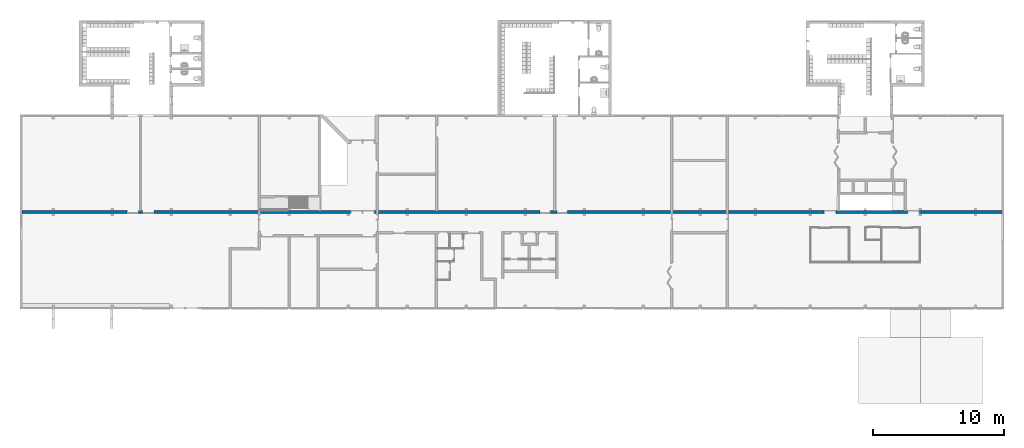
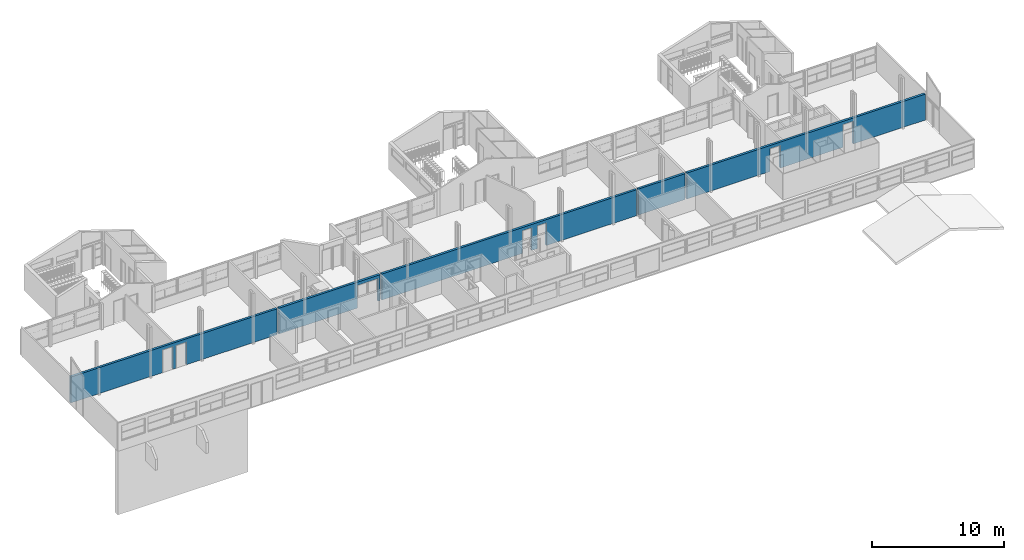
# One storey, part 20 of 48: 1 wall, 8 openings.
"""IFC2X3 building model written with IfcOpenShell, lengths in millimetres."""

import ifcopenshell
import ifcopenshell.guid

model = None  # the IFC model being written
_history = None  # IfcOwnerHistory: only IFC2X3 demands one
_inside = {}  # id of a spatial element -> (the spatial element, [elements in it])
_under = {}  # id of a project, library or spatial element -> (it, [spatial elements below it])
_declared = {}  # id of a project -> (the project, [libraries it declares])
_typed = {}  # id of a type object -> (the type object, [elements of that type])
_made_of = {}  # id of a material, layer set ... -> (it, [elements and type objects made of it])


def new_model(schema):
    """Start an empty IFC model of exactly this schema.

    Asked for "IFC4X3", IfcOpenShell would pick the latest addendum, in which some entities
    have other attributes; the version numbers below select the first issue.
    IFC2X3 requires an IfcOwnerHistory on every rooted entity: one is made here for all.
    """
    global model, _history
    if schema == "IFC4X3":
        model = ifcopenshell.file(schema_version=(4, 3, 0, 0))
    else:
        model = ifcopenshell.file(schema=schema)
    _inside.clear()
    _under.clear()
    _declared.clear()
    _typed.clear()
    _made_of.clear()
    _history = None
    if model.schema == "IFC2X3":
        org = make("IfcOrganization", Name="unknown")
        user = make(
            "IfcPersonAndOrganization",
            ThePerson=make("IfcPerson", FamilyName="unknown"),
            TheOrganization=org,
        )
        app = make(
            "IfcApplication",
            ApplicationDeveloper=org,
            Version="unknown",
            ApplicationFullName="unknown",
            ApplicationIdentifier="unknown",
        )
        _history = make(
            "IfcOwnerHistory",
            OwningUser=user,
            OwningApplication=app,
            ChangeAction="ADDED",
            CreationDate=0,
        )
    return model


def make(cls, **values):
    """One entity of the class cls with the attributes given. An attribute that is None is left unset."""
    return model.create_entity(
        cls, **{name: value for name, value in values.items() if value is not None}
    )


def entity(cls, *values):
    """Any entity or typed value of the class cls, its attributes in the order of the schema. None: left unset."""
    e = model.create_entity(cls)
    for i, value in enumerate(values):
        if value is not None:
            e[i] = value
    return e


def rooted(cls, **values):
    """An entity with a GlobalId (a new one), such as an element, a storey or a relation."""
    return make(cls, GlobalId=ifcopenshell.guid.new(), OwnerHistory=_history, **values)


def si_unit(unit_type, name, prefix=None):
    """IfcSIUnit, for example si_unit("LENGTHUNIT", "METRE", prefix="MILLI")."""
    return make("IfcSIUnit", UnitType=unit_type, Prefix=prefix, Name=name)


def converted_unit(unit_type, name, factor, base, dimensions=None, offset=None):
    """IfcConversionBasedUnit, such as the inch: factor (a typed value) times the base unit."""
    return make(
        "IfcConversionBasedUnit"
        if offset is None
        else "IfcConversionBasedUnitWithOffset",
        ConversionOffset=offset,
        Dimensions=None
        if dimensions is None
        else entity("IfcDimensionalExponents", *dimensions),
        UnitType=unit_type,
        Name=name,
        ConversionFactor=make(
            "IfcMeasureWithUnit", ValueComponent=factor, UnitComponent=base
        ),
    )


def derived_unit(unit_type, elements):
    """IfcDerivedUnit: a product of units, each with its exponent."""
    return make(
        "IfcDerivedUnit",
        Elements=[
            make("IfcDerivedUnitElement", Unit=unit, Exponent=power)
            for unit, power in elements
        ],
        UnitType=unit_type,
    )


def money_unit(currency):
    """IfcMonetaryUnit."""
    return make("IfcMonetaryUnit", Currency=currency)


def assignment(units):
    """IfcUnitAssignment: the units of a project."""
    return None if units is None else make("IfcUnitAssignment", Units=units)


def point(xyz):
    """IfcCartesianPoint."""
    return None if xyz is None else make("IfcCartesianPoint", Coordinates=xyz)


def direction(xyz):
    """IfcDirection."""
    return None if xyz is None else make("IfcDirection", DirectionRatios=xyz)


def frame(location, z_axis=None, x_axis=None):
    """IfcAxis2Placement3D, a coordinate frame: its origin and axes. An axis left out is left unset."""
    return make(
        "IfcAxis2Placement3D",
        Location=point(location),
        Axis=direction(z_axis),
        RefDirection=direction(x_axis),
    )


def origin_with_axes():
    """The frame at (0, 0, 0) with the z axis (0, 0, 1) and the x axis (1, 0, 0) written out."""
    return frame((0.0, 0.0, 0.0), z_axis=(0.0, 0.0, 1.0), x_axis=(1.0, 0.0, 0.0))


def place(relative_to, where):
    """IfcLocalPlacement: puts the frame where relative to a parent placement (None: the world)."""
    return make(
        "IfcLocalPlacement", PlacementRelTo=relative_to, RelativePlacement=where
    )


def context(
    kind, dimensions, precision=None, world=None, true_north=None, identifier=None
):
    """IfcGeometricRepresentationContext, for example the 3D "Model" context."""
    return make(
        "IfcGeometricRepresentationContext",
        ContextIdentifier=identifier,
        ContextType=kind,
        CoordinateSpaceDimension=dimensions,
        Precision=precision,
        WorldCoordinateSystem=world,
        TrueNorth=true_north,
    )


def subcontext(parent, identifier, kind, view, scale=None):
    """IfcGeometricRepresentationSubContext, for example "Body" below "Model"."""
    return make(
        "IfcGeometricRepresentationSubContext",
        ContextIdentifier=identifier,
        ContextType=kind,
        ParentContext=parent,
        TargetScale=scale,
        TargetView=view,
    )


def project(units=None, contexts=None):
    """IfcProject with its units and contexts."""
    return rooted(
        "IfcProject",
        Name="project",
        RepresentationContexts=contexts,
        UnitsInContext=assignment(units),
    )


def spatial(cls, under=None, at=None, **own):
    """A site, building, storey or space (cls), placed at a placement, below another one or the project."""
    s = rooted(cls, ObjectPlacement=at, **own)
    if under is not None:
        _under.setdefault(under.id(), (under, []))[1].append(s)
    return s


def faces_of(points, faces, orient=None, outer=None):
    """IfcFace entities. A face is a list of loops; a loop is a list of indices into points, from 0.

    orient and outer hold one flag for each loop. By default every Orientation is true, the
    first loop of a face is its IfcFaceOuterBound and the others are IfcFaceBound.
    """
    made = []
    for i, loops in enumerate(faces):
        bounds = []
        for j, loop in enumerate(loops):
            is_outer = j == 0 if outer is None else outer[i][j]
            bounds.append(
                make(
                    "IfcFaceOuterBound" if is_outer else "IfcFaceBound",
                    Bound=make("IfcPolyLoop", Polygon=[points[k] for k in loop]),
                    Orientation=True if orient is None else orient[i][j],
                )
            )
        made.append(make("IfcFace", Bounds=bounds))
    return made


def faceted_brep(points, faces, orient=None, outer=None, voids=None):
    """IfcFacetedBrep: a solid bounded by flat faces; with voids (closed shells), ...WithVoids."""
    shared = [point(p) for p in points]
    hull = make("IfcClosedShell", CfsFaces=faces_of(shared, faces, orient, outer))
    if voids is None:
        return make("IfcFacetedBrep", Outer=hull)
    return make(
        "IfcFacetedBrepWithVoids",
        Outer=hull,
        Voids=[
            make(cls, CfsFaces=faces_of(shared, fs, o, b)) for cls, fs, o, b in voids
        ],
    )


def shape(context_of_items, identifier, shape_type, items):
    """IfcShapeRepresentation: the items that make up one representation, for example the "Body"."""
    return make(
        "IfcShapeRepresentation",
        ContextOfItems=context_of_items,
        RepresentationIdentifier=identifier,
        RepresentationType=shape_type,
        Items=items,
    )


def material(Name=None, Category=None):
    """IfcMaterial."""
    return make("IfcMaterial", Name=Name, Category=Category)


def made_of(thing, what):
    """Note that an element or type object is made of a material, layer set ...; save() writes the relation."""
    if what is not None:
        _made_of.setdefault(what.id(), (what, []))[1].append(thing)
    return thing


def type_object(cls, material=None, **own):
    """A type object (cls), such as IfcWallType, which elements share."""
    return made_of(rooted(cls, **own), material)


def element(
    cls,
    number,
    at=None,
    inside=None,
    cuts=None,
    type_object=None,
    material=None,
    context=None,
    identifier="Body",
    shape_type=None,
    held_by="IfcProductDefinitionShape",
    body=None,
    shapes=None,
    **own,
):
    """One element of the class cls, such as IfcWall. Its Tag is "e" and its number.

    at: its placement. inside: the storey or other place that contains it. cuts: it is an
    opening in that element (IfcRelVoidsElement). A single representation is given by context,
    identifier, shape_type and body (its items); several are given by shapes. held_by: the class
    of the entity that holds the representations. save() writes the other relations.
    """
    e = rooted(cls, Tag="e%d" % number, ObjectPlacement=at, **own)
    if body is not None:
        shapes = [shape(context, identifier, shape_type, body)]
    if shapes is not None:
        e.Representation = make(held_by, Representations=shapes)
    if inside is not None:
        _inside.setdefault(inside.id(), (inside, []))[1].append(e)
    if cuts is not None:
        rooted(
            "IfcRelVoidsElement", RelatingBuildingElement=cuts, RelatedOpeningElement=e
        )
    if type_object is not None:
        _typed.setdefault(type_object.id(), (type_object, []))[1].append(e)
    return made_of(e, material)


def aggregate(whole, parts):
    """IfcRelAggregates: a whole, such as a stair, and the parts it consists of."""
    return rooted("IfcRelAggregates", RelatingObject=whole, RelatedObjects=parts)


def save(model, path):
    """Write the relations noted so far, then the file.

    IfcRelAggregates (storeys below a building ...), IfcRelContainedInSpatialStructure (elements
    in a storey), IfcRelDefinesByType, IfcRelAssociatesMaterial and IfcRelDeclares: one each for
    every whole, place, type object, material and project.
    """
    for whole, parts in _under.values():
        aggregate(whole, parts)
    for where, things in _inside.values():
        rooted(
            "IfcRelContainedInSpatialStructure",
            RelatedElements=things,
            RelatingStructure=where,
        )
    for kind, things in _typed.values():
        rooted("IfcRelDefinesByType", RelatedObjects=things, RelatingType=kind)
    for what, things in _made_of.values():
        rooted("IfcRelAssociatesMaterial", RelatedObjects=things, RelatingMaterial=what)
    for by, libraries in _declared.values():
        rooted("IfcRelDeclares", RelatingContext=by, RelatedDefinitions=libraries)
    model.write(path)


model = new_model("IFC2X3")

# Units and contexts
model_context = context("Model", 3, precision=0.01, world=origin_with_axes(), true_north=direction((0.0, 1.0)))
body_context = subcontext(model_context, "Body", "Model", "MODEL_VIEW")
ifc_project = project(units=[si_unit("LENGTHUNIT", "METRE", prefix="MILLI"), si_unit("AREAUNIT", "SQUARE_METRE"), si_unit("VOLUMEUNIT", "CUBIC_METRE"), converted_unit("PLANEANGLEUNIT", "DEGREE", entity("IfcPlaneAngleMeasure", 0.0174532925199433), si_unit("PLANEANGLEUNIT", "RADIAN"), dimensions=[0, 0, 0, 0, 0, 0, 0]), money_unit("USD"), converted_unit("TIMEUNIT", "Year", entity("IfcTimeMeasure", 31557600.0), si_unit("TIMEUNIT", "SECOND"), dimensions=[0, 0, 1, 0, 0, 0, 0]), si_unit("MASSUNIT", "GRAM", prefix="KILO"), si_unit("THERMODYNAMICTEMPERATUREUNIT", "DEGREE_CELSIUS"), si_unit("LUMINOUSINTENSITYUNIT", "LUMEN"), si_unit("ENERGYUNIT", "JOULE", prefix="MEGA"), derived_unit("THERMALCONDUCTANCEUNIT", [(si_unit("POWERUNIT", "WATT"), 1), (si_unit("LENGTHUNIT", "METRE"), -1), (si_unit("THERMODYNAMICTEMPERATUREUNIT", "KELVIN"), -1)]), derived_unit("SPECIFICHEATCAPACITYUNIT", [(si_unit("ENERGYUNIT", "JOULE"), 1), (si_unit("MASSUNIT", "GRAM", prefix="KILO"), -1), (si_unit("THERMODYNAMICTEMPERATUREUNIT", "KELVIN"), -1)]), derived_unit("MASSDENSITYUNIT", [(si_unit("MASSUNIT", "GRAM", prefix="KILO"), 1), (si_unit("VOLUMEUNIT", "CUBIC_METRE"), -1)])], contexts=[model_context])

# Site, building, storey
site_placement = place(None, origin_with_axes())
site = spatial("IfcSite", under=ifc_project, at=site_placement, Name="Site", CompositionType="ELEMENT")
building_placement = place(site_placement, origin_with_axes())
building = spatial("IfcBuilding", under=site, at=building_placement, Name="Building", CompositionType="ELEMENT")
storey_placement = place(building_placement, frame((0.0, 0.0, 3300.0), z_axis=(0.0, 0.0, 1.0), x_axis=(1.0, 0.0, 0.0)))
storey = spatial("IfcBuildingStorey", under=building, at=storey_placement, Name="1 ETG", CompositionType="ELEMENT", Elevation=3300.0)

# Wall, openings
ifc_material = material(Name="GENERIC - INTERNAL FILLER")
wall_type = type_object("IfcWallType", Name="GENERIC - INTERNAL FILLER 200", PredefinedType="NOTDEFINED")
wall_placement = place(storey_placement, frame((-2400.26057248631, 14599.87497638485, 0.0), z_axis=(0.0, 0.0, 1.0), x_axis=(1.0, 0.0, 0.0)))
wall = element("IfcWall", 1, at=wall_placement, inside=storey, type_object=wall_type, material=ifc_material, Name="SW - 001", context=body_context, shape_type="Brep", body=[
    faceted_brep([(39524.34131685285, 0.0, 2100.0), (39524.34131685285, 0.0, 0.0), (27200.52678517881, 0.0, 0.0), (27200.52678517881, 0.0, 2400.0), (49500.2605724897, 0.0, 2400.0), (49500.2605724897, 0.0, 0.0), (41612.66624530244, 0.0, 0.0), (41612.66624530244, 0.0, 2100.0), (40812.66624530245, 0.0, 2100.0), (40812.66624530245, 0.0, 0.0), (40324.34131685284, 0.0, 0.0), (40324.34131685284, 0.0, 2100.0), (39524.34131685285, -199.9999999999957, 2100.0), (39524.34131685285, -199.9999999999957, 0.0), (38490.26057248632, -199.9999999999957, 0.0), (38490.26057248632, -199.8749763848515, 0.0), (38310.26057248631, -199.8749763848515, 0.0), (38310.26057248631, -199.9999999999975, 0.0), (33990.26057248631, -199.9999999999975, 0.0), (33990.26057248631, -199.8749763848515, 0.0), (33810.26057248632, -199.8749763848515, 0.0), (33810.26057248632, -199.9999999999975, 0.0), (29490.26057248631, -199.9999999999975, 0.0), (29490.26057248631, -199.8749763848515, 0.0), (29310.26057248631, -199.8749763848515, 0.0), (29310.26057248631, -199.9999999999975, 0.0), (27200.52678517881, -199.9999999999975, 0.0), (27200.52678517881, -199.9999999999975, 2400.0), (47310.2605724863, -199.8749763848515, 2400.0), (47490.2605724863, -199.8749763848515, 2400.0), (47490.2605724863, -199.9999999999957, 2400.0), (49500.2605724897, -199.9999999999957, 2400.0), (29310.26057248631, -199.9999999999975, 2400.0), (29310.26057248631, -199.8749763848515, 2400.0), (29490.26057248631, -199.8749763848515, 2400.0), (29490.26057248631, -199.9999999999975, 2400.0), (33810.26057248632, -199.9999999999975, 2400.0), (33810.26057248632, -199.8749763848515, 2400.0), (33990.26057248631, -199.8749763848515, 2400.0), (33990.26057248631, -199.9999999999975, 2400.0), (38310.26057248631, -199.9999999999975, 2400.0), (38310.26057248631, -199.8749763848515, 2400.0), (38490.26057248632, -199.8749763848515, 2400.0), (38490.26057248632, -199.9999999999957, 2400.0), (42810.26057248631, -199.9999999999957, 2400.0), (42810.26057248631, -199.8749763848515, 2400.0), (42990.26057248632, -199.8749763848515, 2400.0), (42990.26057248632, -199.9999999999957, 2400.0), (47310.2605724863, -199.9999999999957, 2400.0), (49500.2605724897, -199.9999999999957, 0.0), (42990.26057248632, -199.8749763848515, 0.0), (42810.26057248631, -199.8749763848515, 0.0), (42810.26057248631, -199.9999999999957, 0.0), (41612.66624530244, -199.9999999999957, 0.0), (47490.2605724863, -199.9999999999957, 0.0), (47490.2605724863, -199.8749763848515, 0.0), (47310.2605724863, -199.8749763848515, 0.0), (47310.2605724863, -199.9999999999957, 0.0), (42990.26057248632, -199.9999999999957, 0.0), (41612.66624530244, -199.9999999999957, 2100.0), (40812.66624530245, -199.9999999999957, 2100.0), (40812.66624530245, -199.9999999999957, 0.0), (40324.34131685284, -199.9999999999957, 0.0), (40324.34131685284, -199.9999999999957, 2100.0)], [[[0, 1, 2, 3, 4, 5, 6, 7, 8, 9, 10, 11]], [[1, 0, 12, 13]], [[1, 13, 14, 15, 16, 17, 18, 19, 20, 21, 22, 23, 24, 25, 26, 2]], [[2, 26, 27, 3]], [[28, 29, 30, 31, 4, 3, 27, 32, 33, 34, 35, 36, 37, 38, 39, 40, 41, 42, 43, 44, 45, 46, 47, 48]], [[5, 4, 31, 49]], [[50, 51, 52, 53, 6, 5, 49, 54, 55, 56, 57, 58]], [[6, 53, 59, 7]], [[7, 59, 60, 8]], [[8, 60, 61, 9]], [[62, 10, 9, 61]], [[11, 10, 62, 63]], [[0, 11, 63, 12]], [[63, 62, 61, 60, 59, 53, 52, 44, 43, 14, 13, 12]], [[42, 15, 14, 43]], [[41, 16, 15, 42]], [[40, 17, 16, 41]], [[18, 17, 40, 39]], [[38, 19, 18, 39]], [[37, 20, 19, 38]], [[36, 21, 20, 37]], [[22, 21, 36, 35]], [[34, 23, 22, 35]], [[33, 24, 23, 34]], [[32, 25, 24, 33]], [[32, 27, 26, 25]], [[28, 56, 55, 29]], [[29, 55, 54, 30]], [[54, 49, 31, 30]], [[44, 52, 51, 45]], [[45, 51, 50, 46]], [[46, 50, 58, 47]], [[58, 57, 48, 47]], [[48, 57, 56, 28]]]),
    faceted_brep([(25992.55138746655, -199.9999999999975, 2100.0), (25092.55138746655, -199.9999999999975, 2100.0), (25092.55138746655, 0.0, 2100.0), (25992.55138746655, 0.0, 2100.0), (26892.55138746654, 0.0, 2100.0), (26892.55138746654, -199.9999999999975, 2100.0), (26892.55138746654, -199.9999999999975, 0.0), (27050.52678517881, -199.9999999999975, 0.0), (27050.52678517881, -199.9999999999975, 2400.0), (24990.26057248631, -199.9999999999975, 2400.0), (24990.26057248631, -199.9999999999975, 0.0), (25092.55138746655, -199.9999999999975, 0.0), (25092.55138746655, 0.0, 0.0), (18200.26057248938, 0.0, 0.0), (18200.26057248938, 0.0, 2400.0), (27050.52678517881, 0.0, 2400.0), (27050.52678517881, 0.0, 0.0), (26892.55138746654, 0.0, 0.0), (24810.26057248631, -199.8749763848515, 2400.0), (24990.26057248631, -199.8749763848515, 2400.0), (18200.26057248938, -199.9999999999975, 2400.0), (20310.26057248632, -199.9999999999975, 2400.0), (20310.26057248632, -199.8749763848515, 2400.0), (20490.26057248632, -199.8749763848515, 2400.0), (20490.26057248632, -199.9999999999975, 2400.0), (24810.26057248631, -199.9999999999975, 2400.0), (24990.26057248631, -199.8749763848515, 0.0), (24810.26057248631, -199.8749763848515, 0.0), (24810.26057248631, -199.9999999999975, 0.0), (20490.26057248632, -199.9999999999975, 0.0), (20490.26057248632, -199.8749763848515, 0.0), (20310.26057248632, -199.8749763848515, 0.0), (20310.26057248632, -199.9999999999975, 0.0), (18200.26057248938, -199.9999999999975, 0.0)], [[[0, 1, 2, 3, 4, 5]], [[1, 0, 5, 6, 7, 8, 9, 10, 11]], [[12, 2, 1, 11]], [[2, 12, 13, 14, 15, 16, 17, 4, 3]], [[17, 6, 5, 4]], [[17, 16, 7, 6]], [[16, 15, 8, 7]], [[18, 19, 9, 8, 15, 14, 20, 21, 22, 23, 24, 25]], [[19, 26, 10, 9]], [[12, 11, 10, 26, 27, 28, 29, 30, 31, 32, 33, 13]], [[13, 33, 20, 14]], [[18, 27, 26, 19]], [[21, 20, 33, 32]], [[21, 32, 31, 22]], [[22, 31, 30, 23]], [[23, 30, 29, 24]], [[29, 28, 25, 24]], [[25, 28, 27, 18]]]),
    faceted_brep([(9199.509237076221, 0.0, 2100.0), (9199.509237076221, 0.0, 0.0), (8918.715278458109, 0.0, 0.0), (8918.715278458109, 0.0, 2100.0), (8018.71527845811, 0.0, 2100.0), (8018.71527845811, 0.0, 0.0), (0.0, 0.0, 0.0), (0.0, 0.0, 2400.0), (18050.26057248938, 0.0, 2400.0), (18050.26057248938, 0.0, 0.0), (10099.50923707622, 0.0, 0.0), (10099.50923707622, 0.0, 2100.0), (9199.509237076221, -199.9999999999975, 2100.0), (9199.509237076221, -199.9999999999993, 0.0), (8918.715278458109, -199.9999999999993, 0.0), (8918.715278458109, -199.9999999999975, 2100.0), (8018.71527845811, -199.9999999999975, 2100.0), (8018.71527845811, -199.9999999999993, 0.0), (6810.260572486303, -199.9999999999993, 0.0), (0.0, -199.9999999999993, 0.0), (6990.260572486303, -199.9999999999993, 0.0), (6990.260572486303, -199.8749763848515, 0.0), (6810.260572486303, -199.8749763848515, 0.0), (0.0, -199.9999999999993, 2400.0), (15810.26057248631, -199.8749763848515, 2400.0), (15990.26057248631, -199.8749763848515, 2400.0), (15990.26057248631, -199.9999999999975, 2400.0), (18050.26057248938, -199.9999999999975, 2400.0), (6810.260572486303, -199.9999999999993, 2400.0), (6810.260572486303, -199.8749763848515, 2400.0), (6990.260572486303, -199.8749763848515, 2400.0), (6990.260572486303, -199.9999999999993, 2400.0), (11310.26057248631, -199.9999999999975, 2400.0), (11310.26057248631, -199.8749763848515, 2400.0), (11490.26057248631, -199.8749763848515, 2400.0), (11490.26057248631, -199.9999999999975, 2400.0), (15810.26057248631, -199.9999999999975, 2400.0), (18050.26057248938, -199.9999999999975, 0.0), (10099.50923707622, -199.9999999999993, 0.0), (15990.26057248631, -199.9999999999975, 0.0), (15990.26057248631, -199.8749763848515, 0.0), (15810.26057248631, -199.8749763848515, 0.0), (15810.26057248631, -199.9999999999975, 0.0), (11490.26057248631, -199.9999999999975, 0.0), (11490.26057248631, -199.8749763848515, 0.0), (11310.26057248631, -199.8749763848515, 0.0), (11310.26057248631, -199.9999999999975, 0.0), (10099.50923707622, -199.9999999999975, 2100.0)], [[[0, 1, 2, 3, 4, 5, 6, 7, 8, 9, 10, 11]], [[1, 0, 12, 13]], [[1, 13, 14, 2]], [[2, 14, 15, 3]], [[3, 15, 16, 4]], [[4, 16, 17, 5]], [[18, 19, 6, 5, 17, 20, 21, 22]], [[6, 19, 23, 7]], [[24, 25, 26, 27, 8, 7, 23, 28, 29, 30, 31, 32, 33, 34, 35, 36]], [[9, 8, 27, 37]], [[38, 10, 9, 37, 39, 40, 41, 42, 43, 44, 45, 46]], [[11, 10, 38, 47]], [[0, 11, 47, 12]], [[47, 38, 46, 32, 31, 20, 17, 16, 15, 14, 13, 12]], [[28, 23, 19, 18]], [[30, 21, 20, 31]], [[29, 22, 21, 30]], [[28, 18, 22, 29]], [[24, 41, 40, 25]], [[25, 40, 39, 26]], [[39, 37, 27, 26]], [[32, 46, 45, 33]], [[33, 45, 44, 34]], [[34, 44, 43, 35]], [[43, 42, 36, 35]], [[36, 42, 41, 24]]]),
    faceted_brep([(49650.2605724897, -199.9999999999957, 2400.0), (51660.2605724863, -199.9999999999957, 2400.0), (51660.2605724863, -199.8749763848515, 2400.0), (51840.26057248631, -199.8749763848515, 2400.0), (51840.26057248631, -199.9999999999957, 2400.0), (53750.24783760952, -199.9999999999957, 2400.0), (53750.24748386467, 0.0, 2400.0), (49650.2605724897, 0.0, 2400.0), (49650.2605724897, -199.9999999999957, 0.0), (51660.2605724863, -199.9999999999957, 0.0), (51660.2605724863, -199.8749763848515, 0.0), (51840.26057248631, -199.8749763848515, 0.0), (51840.26057248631, -199.9999999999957, 0.0), (53750.24783760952, -199.9999999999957, 0.0), (53750.24748386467, 0.0, 0.0), (49650.2605724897, 0.0, 0.0)], [[[0, 1, 2, 3, 4, 5, 6, 7]], [[8, 9, 1, 0]], [[10, 2, 1, 9]], [[11, 3, 2, 10]], [[12, 4, 3, 11]], [[5, 4, 12, 13]], [[5, 13, 14, 6]], [[7, 6, 14, 15]], [[0, 7, 15, 8]], [[11, 10, 9, 8, 15, 14, 13, 12]]]),
    faceted_brep([(67570.14995069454, 0.0, 2100.0), (67570.14995069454, 0.0, 0.0), (62096.70198330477, 0.0, 0.0), (62096.70198330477, 0.0, 2100.0), (61196.70198330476, 0.0, 2100.0), (61196.70198330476, 0.0, 0.0), (53900.24748386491, 0.0, 0.0), (53900.24748386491, 0.0, 2400.0), (74790.26057248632, 0.0, 2400.0), (74790.26057248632, 0.0, 0.0), (68470.14995069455, 0.0, 0.0), (68470.14995069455, 0.0, 2100.0), (67570.14995069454, -199.9999999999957, 2100.0), (67570.14995069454, -199.9999999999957, 0.0), (64440.26057248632, -199.9999999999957, 0.0), (64440.26057248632, -199.8749763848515, 0.0), (64260.26057248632, -199.8749763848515, 0.0), (64260.26057248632, -199.9999999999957, 0.0), (62096.70198330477, -199.9999999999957, 0.0), (62096.70198330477, -199.9999999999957, 2100.0), (61196.70198330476, -199.9999999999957, 2100.0), (61196.70198330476, -199.9999999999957, 0.0), (55860.2605724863, -199.9999999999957, 0.0), (53900.24783760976, -199.9999999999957, 0.0), (60240.26057248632, -199.9999999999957, 0.0), (60240.26057248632, -199.8749763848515, 0.0), (60060.26057248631, -199.8749763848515, 0.0), (60060.26057248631, -199.9999999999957, 0.0), (56040.26057248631, -199.9999999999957, 0.0), (56040.26057248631, -199.8749763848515, 0.0), (55860.2605724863, -199.8749763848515, 0.0), (53900.24783760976, -199.9999999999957, 2400.0), (72660.26057248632, -199.8749763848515, 2400.0), (72840.26057248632, -199.8749763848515, 2400.0), (72840.26057248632, -199.9999999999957, 2400.0), (74790.26057248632, -199.9999999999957, 2400.0), (55860.2605724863, -199.9999999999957, 2400.0), (55860.2605724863, -199.8749763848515, 2400.0), (56040.26057248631, -199.8749763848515, 2400.0), (56040.26057248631, -199.9999999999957, 2400.0), (60060.26057248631, -199.9999999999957, 2400.0), (60060.26057248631, -199.8749763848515, 2400.0), (60240.26057248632, -199.8749763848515, 2400.0), (60240.26057248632, -199.9999999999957, 2400.0), (64260.26057248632, -199.9999999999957, 2400.0), (64260.26057248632, -199.8749763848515, 2400.0), (64440.26057248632, -199.8749763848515, 2400.0), (64440.26057248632, -199.9999999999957, 2400.0), (68460.26057248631, -199.9999999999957, 2400.0), (68460.26057248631, -199.8749763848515, 2400.0), (68640.26057248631, -199.8749763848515, 2400.0), (68640.26057248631, -199.9999999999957, 2400.0), (72660.26057248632, -199.9999999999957, 2400.0), (74790.26057248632, -199.9999999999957, 0.0), (68470.14995069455, -199.8749763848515, 0.0), (72840.26057248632, -199.9999999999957, 0.0), (72840.26057248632, -199.8749763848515, 0.0), (72660.26057248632, -199.8749763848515, 0.0), (72660.26057248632, -199.9999999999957, 0.0), (68640.26057248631, -199.9999999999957, 0.0), (68640.26057248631, -199.8749763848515, 0.0), (68470.14995069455, -199.8749763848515, 2100.0), (68460.26057248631, -199.8749763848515, 2100.0), (68460.26057248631, -199.9999999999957, 2100.0)], [[[0, 1, 2, 3, 4, 5, 6, 7, 8, 9, 10, 11]], [[1, 0, 12, 13]], [[1, 13, 14, 15, 16, 17, 18, 2]], [[2, 18, 19, 3]], [[3, 19, 20, 4]], [[4, 20, 21, 5]], [[22, 23, 6, 5, 21, 24, 25, 26, 27, 28, 29, 30]], [[6, 23, 31, 7]], [[32, 33, 34, 35, 8, 7, 31, 36, 37, 38, 39, 40, 41, 42, 43, 44, 45, 46, 47, 48, 49, 50, 51, 52]], [[9, 8, 35, 53]], [[54, 10, 9, 53, 55, 56, 57, 58, 59, 60]], [[11, 10, 54, 61]], [[0, 11, 61, 62, 63, 12]], [[12, 63, 48, 47, 14, 13]], [[46, 15, 14, 47]], [[45, 16, 15, 46]], [[44, 17, 16, 45]], [[24, 21, 20, 19, 18, 17, 44, 43]], [[36, 31, 23, 22]], [[42, 25, 24, 43]], [[41, 26, 25, 42]], [[40, 27, 26, 41]], [[28, 27, 40, 39]], [[38, 29, 28, 39]], [[37, 30, 29, 38]], [[36, 22, 30, 37]], [[32, 57, 56, 33]], [[33, 56, 55, 34]], [[55, 53, 35, 34]], [[63, 62, 49, 48]], [[61, 54, 60, 50, 49, 62]], [[50, 60, 59, 51]], [[59, 58, 52, 51]], [[52, 58, 57, 32]]]),
])
opening_1_placement = place(wall_placement, frame((8468.71527845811, 0.0, 0.0), z_axis=(0.0, 0.0, 1.0), x_axis=(1.0, 0.0, 0.0)))
element("IfcOpeningElement", 2, at=opening_1_placement, cuts=wall, Name="DOO - 002", context=body_context, shape_type="Brep", body=[
    faceted_brep([(-450.0000000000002, -199.9999999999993, 2100.0), (450.0000000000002, -199.9999999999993, 2100.0), (450.0000000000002, 0.0, 2100.0), (-450.0000000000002, 0.0, 2100.0), (450.0000000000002, -199.9999999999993, 0.0), (-450.0000000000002, -199.9999999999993, 0.0), (-487.0000000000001, -199.9999999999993, 0.0), (-487.0000000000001, -199.9999999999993, 2137.0), (487.0000000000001, -199.9999999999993, 2137.0), (487.0000000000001, -199.9999999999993, 0.0), (450.0000000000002, 0.0, 0.0), (487.0000000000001, 0.0, 0.0), (487.0000000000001, 0.0, 2137.0), (-487.0000000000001, 0.0, 2137.0), (-487.0000000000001, 0.0, 0.0), (-450.0000000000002, 0.0, 0.0), (-450.0000000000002, -200.9999999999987, 0.0), (-487.0000000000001, -200.9999999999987, 0.0), (-487.0000000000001, -200.9999999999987, 2137.0), (487.0000000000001, -200.9999999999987, 2137.0), (487.0000000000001, -200.9999999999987, 0.0), (450.0000000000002, -200.9999999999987, 0.0), (-450.0000000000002, 0.9999999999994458, 0.0), (450.0000000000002, 0.9999999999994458, 0.0), (487.0000000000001, 0.9999999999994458, 0.0), (487.0000000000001, 1.000000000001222, 2137.0), (-487.0000000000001, 1.000000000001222, 2137.0), (-487.0000000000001, 0.9999999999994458, 0.0), (-450.0000000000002, -200.9999999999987, 2100.0), (450.0000000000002, -200.9999999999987, 2100.0)], [[[0, 1, 2, 3]], [[4, 1, 0, 5, 6, 7, 8, 9]], [[1, 4, 10, 2]], [[3, 2, 10, 11, 12, 13, 14, 15]], [[5, 0, 3, 15]], [[5, 16, 17, 6]], [[7, 6, 17, 18]], [[8, 7, 18, 19]], [[9, 8, 19, 20]], [[21, 4, 9, 20]], [[16, 5, 15, 22, 23, 10, 4, 21]], [[10, 23, 24, 11]], [[12, 11, 24, 25]], [[13, 12, 25, 26]], [[14, 13, 26, 27]], [[22, 15, 14, 27]], [[28, 29, 21, 20, 19, 18, 17, 16]], [[23, 22, 27, 26, 25, 24]], [[28, 16, 21, 29]]]),
])
opening_2_placement = place(wall_placement, frame((9649.50923707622, 0.0, 0.0), z_axis=(0.0, 0.0, 1.0), x_axis=(1.0, 0.0, 0.0)))
element("IfcOpeningElement", 3, at=opening_2_placement, cuts=wall, Name="DOO - 002", context=body_context, shape_type="Brep", body=[
    faceted_brep([(-450.0000000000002, -199.9999999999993, 2100.0), (450.0000000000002, -199.9999999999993, 2100.0), (450.0000000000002, 0.0, 2100.0), (-450.0000000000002, 0.0, 2100.0), (450.0000000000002, -199.9999999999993, 0.0), (-450.0000000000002, -199.9999999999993, 0.0), (-487.0000000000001, -199.9999999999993, 0.0), (-487.0000000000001, -199.9999999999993, 2137.0), (487.0000000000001, -199.9999999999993, 2137.0), (487.0000000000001, -199.9999999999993, 0.0), (450.0000000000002, 0.0, 0.0), (487.0000000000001, 0.0, 0.0), (487.0000000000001, 0.0, 2137.0), (-487.0000000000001, 0.0, 2137.0), (-487.0000000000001, 0.0, 0.0), (-450.0000000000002, 0.0, 0.0), (-450.0000000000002, -200.9999999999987, 0.0), (-487.0000000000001, -200.9999999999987, 0.0), (-487.0000000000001, -200.9999999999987, 2137.0), (487.0000000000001, -200.9999999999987, 2137.0), (487.0000000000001, -200.9999999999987, 0.0), (450.0000000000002, -200.9999999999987, 0.0), (-450.0000000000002, 0.9999999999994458, 0.0), (450.0000000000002, 0.9999999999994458, 0.0), (487.0000000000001, 0.9999999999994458, 0.0), (487.0000000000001, 1.000000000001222, 2137.0), (-487.0000000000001, 1.000000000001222, 2137.0), (-487.0000000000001, 0.9999999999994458, 0.0), (-450.0000000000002, -200.9999999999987, 2100.0), (450.0000000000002, -200.9999999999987, 2100.0)], [[[0, 1, 2, 3]], [[4, 1, 0, 5, 6, 7, 8, 9]], [[1, 4, 10, 2]], [[3, 2, 10, 11, 12, 13, 14, 15]], [[5, 0, 3, 15]], [[5, 16, 17, 6]], [[7, 6, 17, 18]], [[8, 7, 18, 19]], [[9, 8, 19, 20]], [[21, 4, 9, 20]], [[16, 5, 15, 22, 23, 10, 4, 21]], [[10, 23, 24, 11]], [[12, 11, 24, 25]], [[13, 12, 25, 26]], [[14, 13, 26, 27]], [[22, 15, 14, 27]], [[28, 29, 21, 20, 19, 18, 17, 16]], [[23, 22, 27, 26, 25, 24]], [[28, 16, 21, 29]]]),
])
opening_3_placement = place(wall_placement, frame((26442.55138746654, 0.0, 0.0), z_axis=(0.0, 0.0, 1.0), x_axis=(1.0, 0.0, 0.0)))
element("IfcOpeningElement", 4, at=opening_3_placement, cuts=wall, Name="DOO - 002", context=body_context, shape_type="Brep", body=[
    faceted_brep([(-449.9999999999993, 0.9999999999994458, 2100.0), (449.9999999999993, 0.9999999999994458, 2100.0), (449.9999999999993, 0.9999999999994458, 0.0), (-449.9999999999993, 0.9999999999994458, 0.0), (-486.9999999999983, 0.9999999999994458, 0.0), (-486.9999999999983, 0.9999999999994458, 2137.0), (486.9999999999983, 0.9999999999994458, 2137.0), (486.9999999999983, 0.9999999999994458, 0.0), (-449.9999999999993, 0.0, 0.0), (449.9999999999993, 0.0, 0.0), (449.9999999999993, -199.9999999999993, 0.0), (449.9999999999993, -200.9999999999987, 0.0), (-449.9999999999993, -200.9999999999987, 0.0), (-449.9999999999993, -199.9999999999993, 0.0), (-486.9999999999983, 0.0, 0.0), (-486.9999999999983, 0.0, 2137.0), (486.9999999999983, 0.0, 2137.0), (486.9999999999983, 0.0, 0.0), (449.9999999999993, 0.0, 2100.0), (449.9999999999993, -199.9999999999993, 2100.0), (486.9999999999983, -199.9999999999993, 0.0), (486.9999999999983, -200.9999999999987, 0.0), (486.9999999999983, -200.9999999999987, 2137.0), (-486.9999999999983, -200.9999999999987, 2137.0), (-486.9999999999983, -200.9999999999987, 0.0), (-486.9999999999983, -199.9999999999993, 0.0), (-449.9999999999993, 0.0, 2100.0), (-449.9999999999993, -199.9999999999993, 2100.0), (-486.9999999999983, -199.9999999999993, 2137.0), (486.9999999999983, -199.9999999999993, 2137.0)], [[[0, 1, 2, 3]], [[2, 1, 0, 3, 4, 5, 6, 7]], [[8, 3, 2, 9, 10, 11, 12, 13]], [[3, 8, 14, 4]], [[14, 15, 5, 4]], [[15, 16, 6, 5]], [[16, 17, 7, 6]], [[9, 2, 7, 17]], [[9, 18, 19, 10]], [[11, 10, 20, 21]], [[12, 11, 21, 22, 23, 24]], [[13, 12, 24, 25]], [[26, 8, 13, 27]], [[26, 18, 9, 17, 16, 15, 14, 8]], [[18, 26, 27, 19]], [[10, 19, 27, 13, 25, 28, 29, 20]], [[20, 29, 22, 21]], [[29, 28, 23, 22]], [[28, 25, 24, 23]]]),
])
opening_4_placement = place(wall_placement, frame((25542.55138746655, 0.0, 0.0), z_axis=(0.0, 0.0, 1.0), x_axis=(1.0, 0.0, 0.0)))
element("IfcOpeningElement", 5, at=opening_4_placement, cuts=wall, Name="DOO - 002", context=body_context, shape_type="Brep", body=[
    faceted_brep([(-449.9999999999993, 0.9999999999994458, 2100.0), (449.9999999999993, 0.9999999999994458, 2100.0), (449.9999999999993, 0.9999999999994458, 0.0), (-449.9999999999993, 0.9999999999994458, 0.0), (-486.9999999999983, 0.9999999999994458, 0.0), (-486.9999999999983, 0.9999999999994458, 2137.0), (486.9999999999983, 0.9999999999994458, 2137.0), (486.9999999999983, 0.9999999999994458, 0.0), (-449.9999999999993, 0.0, 0.0), (449.9999999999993, 0.0, 0.0), (449.9999999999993, -199.9999999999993, 0.0), (449.9999999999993, -200.9999999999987, 0.0), (-449.9999999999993, -200.9999999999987, 0.0), (-449.9999999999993, -199.9999999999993, 0.0), (-486.9999999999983, 0.0, 0.0), (-486.9999999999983, 0.0, 2137.0), (486.9999999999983, 0.0, 2137.0), (486.9999999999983, 0.0, 0.0), (449.9999999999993, 0.0, 2100.0), (449.9999999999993, -199.9999999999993, 2100.0), (486.9999999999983, -199.9999999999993, 0.0), (486.9999999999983, -200.9999999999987, 0.0), (486.9999999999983, -200.9999999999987, 2137.0), (-486.9999999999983, -200.9999999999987, 2137.0), (-486.9999999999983, -200.9999999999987, 0.0), (-486.9999999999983, -199.9999999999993, 0.0), (-449.9999999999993, 0.0, 2100.0), (-449.9999999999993, -199.9999999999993, 2100.0), (-486.9999999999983, -199.9999999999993, 2137.0), (486.9999999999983, -199.9999999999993, 2137.0)], [[[0, 1, 2, 3]], [[2, 1, 0, 3, 4, 5, 6, 7]], [[8, 3, 2, 9, 10, 11, 12, 13]], [[3, 8, 14, 4]], [[14, 15, 5, 4]], [[15, 16, 6, 5]], [[16, 17, 7, 6]], [[9, 2, 7, 17]], [[9, 18, 19, 10]], [[11, 10, 20, 21]], [[12, 11, 21, 22, 23, 24]], [[13, 12, 24, 25]], [[26, 8, 13, 27]], [[26, 18, 9, 17, 16, 15, 14, 8]], [[18, 26, 27, 19]], [[10, 19, 27, 13, 25, 28, 29, 20]], [[20, 29, 22, 21]], [[29, 28, 23, 22]], [[28, 25, 24, 23]]]),
])
opening_5_placement = place(wall_placement, frame((41212.66624530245, 0.0, 0.0), z_axis=(0.0, 0.0, 1.0), x_axis=(1.0, 0.0, 0.0)))
element("IfcOpeningElement", 6, at=opening_5_placement, cuts=wall, Name="DOO - 002", context=body_context, shape_type="Brep", body=[
    faceted_brep([(-399.9999999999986, -199.9999999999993, 2100.0), (399.9999999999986, -199.9999999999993, 2100.0), (399.9999999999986, 0.0, 2100.0), (-399.9999999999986, 0.0, 2100.0), (399.9999999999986, -199.9999999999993, 0.0), (-399.9999999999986, -199.9999999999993, 0.0), (-436.9999999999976, -199.9999999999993, 0.0), (-436.9999999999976, -199.9999999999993, 2137.0), (436.9999999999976, -199.9999999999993, 2137.0), (436.9999999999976, -199.9999999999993, 0.0), (399.9999999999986, 0.0, 0.0), (436.9999999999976, 0.0, 0.0), (436.9999999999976, 0.0, 2137.0), (-436.9999999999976, 0.0, 2137.0), (-436.9999999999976, 0.0, 0.0), (-399.9999999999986, 0.0, 0.0), (-399.9999999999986, -200.9999999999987, 0.0), (-436.9999999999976, -200.9999999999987, 0.0), (-436.9999999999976, -200.9999999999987, 2137.0), (436.9999999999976, -200.9999999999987, 2137.0), (436.9999999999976, -200.9999999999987, 0.0), (399.9999999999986, -200.9999999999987, 0.0), (-399.9999999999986, 0.9999999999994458, 0.0), (399.9999999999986, 0.9999999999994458, 0.0), (436.9999999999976, 0.9999999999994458, 0.0), (436.9999999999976, 1.000000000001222, 2137.0), (-436.9999999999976, 1.000000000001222, 2137.0), (-436.9999999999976, 0.9999999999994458, 0.0), (-399.9999999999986, -200.9999999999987, 2100.0), (399.9999999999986, -200.9999999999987, 2100.0)], [[[0, 1, 2, 3]], [[4, 1, 0, 5, 6, 7, 8, 9]], [[1, 4, 10, 2]], [[3, 2, 10, 11, 12, 13, 14, 15]], [[5, 0, 3, 15]], [[5, 16, 17, 6]], [[7, 6, 17, 18]], [[8, 7, 18, 19]], [[9, 8, 19, 20]], [[21, 4, 9, 20]], [[16, 5, 15, 22, 23, 10, 4, 21]], [[10, 23, 24, 11]], [[12, 11, 24, 25]], [[13, 12, 25, 26]], [[14, 13, 26, 27]], [[22, 15, 14, 27]], [[28, 29, 21, 20, 19, 18, 17, 16]], [[23, 22, 27, 26, 25, 24]], [[28, 16, 21, 29]]]),
])
opening_6_placement = place(wall_placement, frame((61646.70198330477, 0.0, 0.0), z_axis=(0.0, 0.0, 1.0), x_axis=(1.0, 0.0, 0.0)))
element("IfcOpeningElement", 7, at=opening_6_placement, cuts=wall, Name="DOO - 002", context=body_context, shape_type="Brep", body=[
    faceted_brep([(-450.0000000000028, 0.9999999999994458, 2100.0), (450.0000000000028, 0.9999999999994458, 2100.0), (450.0000000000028, 0.9999999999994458, 0.0), (-450.0000000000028, 0.9999999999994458, 0.0), (-487.0000000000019, 0.9999999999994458, 0.0), (-487.0000000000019, 0.9999999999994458, 2137.0), (487.0000000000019, 0.9999999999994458, 2137.0), (487.0000000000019, 0.9999999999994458, 0.0), (-450.0000000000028, 0.0, 0.0), (450.0000000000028, 0.0, 0.0), (450.0000000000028, -199.9999999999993, 0.0), (450.0000000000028, -200.9999999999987, 0.0), (-450.0000000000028, -200.9999999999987, 0.0), (-450.0000000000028, -199.9999999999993, 0.0), (-487.0000000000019, 0.0, 0.0), (-487.0000000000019, 0.0, 2137.0), (487.0000000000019, 0.0, 2137.0), (487.0000000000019, 0.0, 0.0), (450.0000000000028, 0.0, 2100.0), (450.0000000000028, -199.9999999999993, 2100.0), (487.0000000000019, -199.9999999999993, 0.0), (487.0000000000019, -200.9999999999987, 0.0), (487.0000000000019, -200.9999999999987, 2137.0), (-487.0000000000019, -200.9999999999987, 2137.0), (-487.0000000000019, -200.9999999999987, 0.0), (-487.0000000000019, -199.9999999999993, 0.0), (-450.0000000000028, 0.0, 2100.0), (-450.0000000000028, -199.9999999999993, 2100.0), (-487.0000000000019, -199.9999999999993, 2137.0), (487.0000000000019, -199.9999999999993, 2137.0)], [[[0, 1, 2, 3]], [[2, 1, 0, 3, 4, 5, 6, 7]], [[8, 3, 2, 9, 10, 11, 12, 13]], [[3, 8, 14, 4]], [[14, 15, 5, 4]], [[15, 16, 6, 5]], [[16, 17, 7, 6]], [[9, 2, 7, 17]], [[9, 18, 19, 10]], [[11, 10, 20, 21]], [[12, 11, 21, 22, 23, 24]], [[13, 12, 24, 25]], [[26, 8, 13, 27]], [[26, 18, 9, 17, 16, 15, 14, 8]], [[18, 26, 27, 19]], [[10, 19, 27, 13, 25, 28, 29, 20]], [[20, 29, 22, 21]], [[29, 28, 23, 22]], [[28, 25, 24, 23]]]),
])
opening_7_placement = place(wall_placement, frame((39924.34131685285, 0.0, 0.0), z_axis=(0.0, 0.0, 1.0), x_axis=(1.0, 0.0, 0.0)))
element("IfcOpeningElement", 8, at=opening_7_placement, cuts=wall, Name="DOO - 002", context=body_context, shape_type="Brep", body=[
    faceted_brep([(-399.9999999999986, -199.9999999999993, 2100.0), (399.9999999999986, -199.9999999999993, 2100.0), (399.9999999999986, 0.0, 2100.0), (-399.9999999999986, 0.0, 2100.0), (399.9999999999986, -199.9999999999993, 0.0), (-399.9999999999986, -199.9999999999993, 0.0), (-436.9999999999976, -199.9999999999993, 0.0), (-436.9999999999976, -199.9999999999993, 2137.0), (436.9999999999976, -199.9999999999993, 2137.0), (436.9999999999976, -199.9999999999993, 0.0), (399.9999999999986, 0.0, 0.0), (436.9999999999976, 0.0, 0.0), (436.9999999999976, 0.0, 2137.0), (-436.9999999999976, 0.0, 2137.0), (-436.9999999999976, 0.0, 0.0), (-399.9999999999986, 0.0, 0.0), (-399.9999999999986, -200.9999999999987, 0.0), (-436.9999999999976, -200.9999999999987, 0.0), (-436.9999999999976, -200.9999999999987, 2137.0), (436.9999999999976, -200.9999999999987, 2137.0), (436.9999999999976, -200.9999999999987, 0.0), (399.9999999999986, -200.9999999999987, 0.0), (-399.9999999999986, 0.9999999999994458, 0.0), (399.9999999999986, 0.9999999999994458, 0.0), (436.9999999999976, 0.9999999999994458, 0.0), (436.9999999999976, 1.000000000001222, 2137.0), (-436.9999999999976, 1.000000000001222, 2137.0), (-436.9999999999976, 0.9999999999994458, 0.0), (-399.9999999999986, -200.9999999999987, 2100.0), (399.9999999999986, -200.9999999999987, 2100.0)], [[[0, 1, 2, 3]], [[4, 1, 0, 5, 6, 7, 8, 9]], [[1, 4, 10, 2]], [[3, 2, 10, 11, 12, 13, 14, 15]], [[5, 0, 3, 15]], [[5, 16, 17, 6]], [[7, 6, 17, 18]], [[8, 7, 18, 19]], [[9, 8, 19, 20]], [[21, 4, 9, 20]], [[16, 5, 15, 22, 23, 10, 4, 21]], [[10, 23, 24, 11]], [[12, 11, 24, 25]], [[13, 12, 25, 26]], [[14, 13, 26, 27]], [[22, 15, 14, 27]], [[28, 29, 21, 20, 19, 18, 17, 16]], [[23, 22, 27, 26, 25, 24]], [[28, 16, 21, 29]]]),
])
opening_8_placement = place(wall_placement, frame((68020.14995069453, 0.0, 0.0), z_axis=(0.0, 0.0, 1.0), x_axis=(1.0, 0.0, 0.0)))
element("IfcOpeningElement", 9, at=opening_8_placement, cuts=wall, Name="DOO - 002", context=body_context, shape_type="Brep", body=[
    faceted_brep([(-450.0000000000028, 0.9999999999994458, 2100.0), (450.0000000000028, 0.9999999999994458, 2100.0), (450.0000000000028, 0.9999999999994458, 0.0), (-450.0000000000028, 0.9999999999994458, 0.0), (-486.9999999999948, 0.9999999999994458, 0.0), (-486.9999999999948, 0.9999999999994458, 2137.0), (486.9999999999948, 0.9999999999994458, 2137.0), (486.9999999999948, 0.9999999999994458, 0.0), (-450.0000000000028, 0.0, 0.0), (450.0000000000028, 0.0, 0.0), (450.0000000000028, -199.9999999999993, 0.0), (450.0000000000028, -200.9999999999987, 0.0), (-450.0000000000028, -200.9999999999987, 0.0), (-450.0000000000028, -199.9999999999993, 0.0), (-486.9999999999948, 0.0, 0.0), (-486.9999999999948, 0.0, 2137.0), (486.9999999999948, 0.0, 2137.0), (486.9999999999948, 0.0, 0.0), (450.0000000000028, 0.0, 2100.0), (450.0000000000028, -199.9999999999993, 2100.0), (486.9999999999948, -199.9999999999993, 0.0), (486.9999999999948, -200.9999999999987, 0.0), (486.9999999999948, -200.9999999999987, 2137.0), (-486.9999999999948, -200.9999999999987, 2137.0), (-486.9999999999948, -200.9999999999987, 0.0), (-486.9999999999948, -199.9999999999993, 0.0), (-450.0000000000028, 0.0, 2100.0), (-450.0000000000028, -199.9999999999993, 2100.0), (-486.9999999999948, -199.9999999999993, 2137.0), (486.9999999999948, -199.9999999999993, 2137.0)], [[[0, 1, 2, 3]], [[2, 1, 0, 3, 4, 5, 6, 7]], [[8, 3, 2, 9, 10, 11, 12, 13]], [[3, 8, 14, 4]], [[14, 15, 5, 4]], [[15, 16, 6, 5]], [[16, 17, 7, 6]], [[9, 2, 7, 17]], [[9, 18, 19, 10]], [[11, 10, 20, 21]], [[12, 11, 21, 22, 23, 24]], [[13, 12, 24, 25]], [[26, 8, 13, 27]], [[26, 18, 9, 17, 16, 15, 14, 8]], [[18, 26, 27, 19]], [[10, 19, 27, 13, 25, 28, 29, 20]], [[20, 29, 22, 21]], [[29, 28, 23, 22]], [[28, 25, 24, 23]]]),
])

save(model, "model.ifc")
